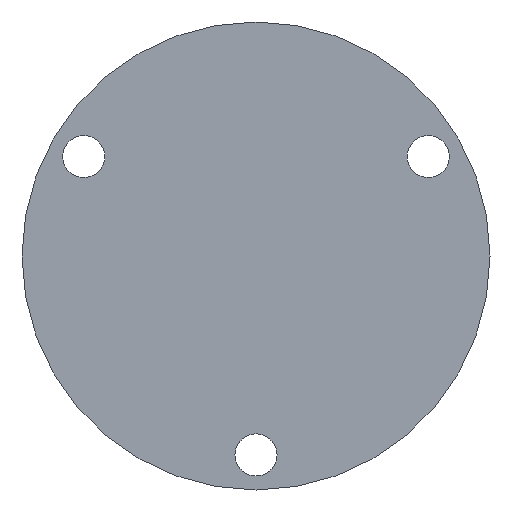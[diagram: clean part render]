
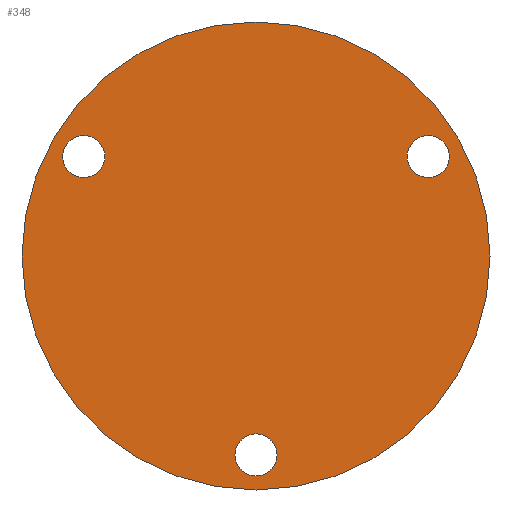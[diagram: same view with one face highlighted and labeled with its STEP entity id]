
A CAD part, front view. The second image highlights one B-rep face of the part: STEP entity #348.
In plain terms, the highlighted planar face has unit normal (0, -1, 0).
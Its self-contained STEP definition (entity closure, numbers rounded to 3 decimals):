
#7 = DIRECTION ( 'NONE',  ( 0., 0., -1. ) ) ;
#23 = DIRECTION ( 'NONE',  ( 0., 1., 0. ) ) ;
#26 = CARTESIAN_POINT ( 'NONE',  ( 0., 0., -8.5 ) ) ;
#39 = ORIENTED_EDGE ( 'NONE', *, *, #589, .T. ) ;
#45 = CIRCLE ( 'NONE', #569, 0.9 ) ;
#46 = EDGE_CURVE ( 'NONE', #62, #512, #385, .T. ) ;
#52 = FACE_OUTER_BOUND ( 'NONE', #269, .T. ) ;
#59 = FACE_BOUND ( 'NONE', #559, .T. ) ;
#62 = VERTEX_POINT ( 'NONE', #634 ) ;
#65 = EDGE_CURVE ( 'NONE', #674, #597, #461, .T. ) ;
#66 = AXIS2_PLACEMENT_3D ( 'NONE', #471, #693, #7 ) ;
#72 = CARTESIAN_POINT ( 'NONE',  ( 0., 0., -7.6 ) ) ;
#113 = DIRECTION ( 'NONE',  ( 0.866, 0., -0.5 ) ) ;
#118 = EDGE_CURVE ( 'NONE', #163, #715, #663, .T. ) ;
#163 = VERTEX_POINT ( 'NONE', #343 ) ;
#165 = PLANE ( 'NONE',  #465 ) ;
#183 = CARTESIAN_POINT ( 'NONE',  ( -7.361, 0., 4.25 ) ) ;
#209 = DIRECTION ( 'NONE',  ( -0.866, 0., -0.5 ) ) ;
#220 = FACE_BOUND ( 'NONE', #469, .T. ) ;
#225 = CARTESIAN_POINT ( 'NONE',  ( 7.361, 0., 4.25 ) ) ;
#252 = DIRECTION ( 'NONE',  ( 0., 1., 0. ) ) ;
#256 = CIRCLE ( 'NONE', #733, 0.9 ) ;
#266 = EDGE_CURVE ( 'NONE', #549, #617, #45, .T. ) ;
#269 = EDGE_LOOP ( 'NONE', ( #427, #454 ) ) ;
#294 = CARTESIAN_POINT ( 'NONE',  ( 0., 0., -8.5 ) ) ;
#303 = CARTESIAN_POINT ( 'NONE',  ( 0., 0., -9.4 ) ) ;
#317 = EDGE_CURVE ( 'NONE', #715, #163, #318, .T. ) ;
#318 = CIRCLE ( 'NONE', #562, 10. ) ;
#322 = DIRECTION ( 'NONE',  ( 0., 1., 0. ) ) ;
#333 = ORIENTED_EDGE ( 'NONE', *, *, #369, .T. ) ;
#343 = CARTESIAN_POINT ( 'NONE',  ( 0., 0., 10. ) ) ;
#345 = DIRECTION ( 'NONE',  ( 0., 1., 0. ) ) ;
#348 = ADVANCED_FACE ( 'NONE', ( #220, #59, #525, #52 ), #165, .F. ) ;
#351 = DIRECTION ( 'NONE',  ( 0., 1., 0. ) ) ;
#369 = EDGE_CURVE ( 'NONE', #512, #62, #505, .T. ) ;
#385 = CIRCLE ( 'NONE', #736, 0.9 ) ;
#397 = AXIS2_PLACEMENT_3D ( 'NONE', #464, #351, #113 ) ;
#399 = DIRECTION ( 'NONE',  ( -0.866, 0., -0.5 ) ) ;
#401 = CARTESIAN_POINT ( 'NONE',  ( 0., 0., 0. ) ) ;
#403 = AXIS2_PLACEMENT_3D ( 'NONE', #183, #252, #481 ) ;
#405 = DIRECTION ( 'NONE',  ( 0., 0., 1. ) ) ;
#427 = ORIENTED_EDGE ( 'NONE', *, *, #317, .T. ) ;
#446 = AXIS2_PLACEMENT_3D ( 'NONE', #225, #345, #399 ) ;
#454 = ORIENTED_EDGE ( 'NONE', *, *, #118, .T. ) ;
#461 = CIRCLE ( 'NONE', #397, 0.9 ) ;
#464 = CARTESIAN_POINT ( 'NONE',  ( -7.361, 0., 4.25 ) ) ;
#465 = AXIS2_PLACEMENT_3D ( 'NONE', #401, #466, #405 ) ;
#466 = DIRECTION ( 'NONE',  ( 0., 1., 0. ) ) ;
#469 = EDGE_LOOP ( 'NONE', ( #728, #39 ) ) ;
#471 = CARTESIAN_POINT ( 'NONE',  ( 0., 0., 0. ) ) ;
#481 = DIRECTION ( 'NONE',  ( 0.866, 0., -0.5 ) ) ;
#491 = CARTESIAN_POINT ( 'NONE',  ( -7.361, 0., 3.35 ) ) ;
#504 = ORIENTED_EDGE ( 'NONE', *, *, #46, .T. ) ;
#505 = CIRCLE ( 'NONE', #446, 0.9 ) ;
#508 = CARTESIAN_POINT ( 'NONE',  ( -7.361, 0., 5.15 ) ) ;
#512 = VERTEX_POINT ( 'NONE', #653 ) ;
#525 = FACE_BOUND ( 'NONE', #627, .T. ) ;
#549 = VERTEX_POINT ( 'NONE', #72 ) ;
#554 = CARTESIAN_POINT ( 'NONE',  ( 0., 0., -10. ) ) ;
#555 = ORIENTED_EDGE ( 'NONE', *, *, #266, .T. ) ;
#559 = EDGE_LOOP ( 'NONE', ( #333, #504 ) ) ;
#562 = AXIS2_PLACEMENT_3D ( 'NONE', #688, #700, #570 ) ;
#569 = AXIS2_PLACEMENT_3D ( 'NONE', #26, #23, #607 ) ;
#570 = DIRECTION ( 'NONE',  ( 0., 0., -1. ) ) ;
#575 = EDGE_CURVE ( 'NONE', #617, #549, #256, .T. ) ;
#589 = EDGE_CURVE ( 'NONE', #597, #674, #660, .T. ) ;
#597 = VERTEX_POINT ( 'NONE', #491 ) ;
#607 = DIRECTION ( 'NONE',  ( 0., 0., 1. ) ) ;
#617 = VERTEX_POINT ( 'NONE', #303 ) ;
#627 = EDGE_LOOP ( 'NONE', ( #555, #699 ) ) ;
#634 = CARTESIAN_POINT ( 'NONE',  ( 7.361, 0., 3.35 ) ) ;
#653 = CARTESIAN_POINT ( 'NONE',  ( 7.361, 0., 5.15 ) ) ;
#660 = CIRCLE ( 'NONE', #403, 0.9 ) ;
#661 = DIRECTION ( 'NONE',  ( 0., 1., 0. ) ) ;
#663 = CIRCLE ( 'NONE', #66, 10. ) ;
#674 = VERTEX_POINT ( 'NONE', #508 ) ;
#688 = CARTESIAN_POINT ( 'NONE',  ( 0., 0., 0. ) ) ;
#693 = DIRECTION ( 'NONE',  ( 0., -1., 0. ) ) ;
#699 = ORIENTED_EDGE ( 'NONE', *, *, #575, .T. ) ;
#700 = DIRECTION ( 'NONE',  ( 0., -1., 0. ) ) ;
#702 = DIRECTION ( 'NONE',  ( 0., 0., 1. ) ) ;
#715 = VERTEX_POINT ( 'NONE', #554 ) ;
#728 = ORIENTED_EDGE ( 'NONE', *, *, #65, .T. ) ;
#733 = AXIS2_PLACEMENT_3D ( 'NONE', #294, #661, #702 ) ;
#734 = CARTESIAN_POINT ( 'NONE',  ( 7.361, 0., 4.25 ) ) ;
#736 = AXIS2_PLACEMENT_3D ( 'NONE', #734, #322, #209 ) ;
